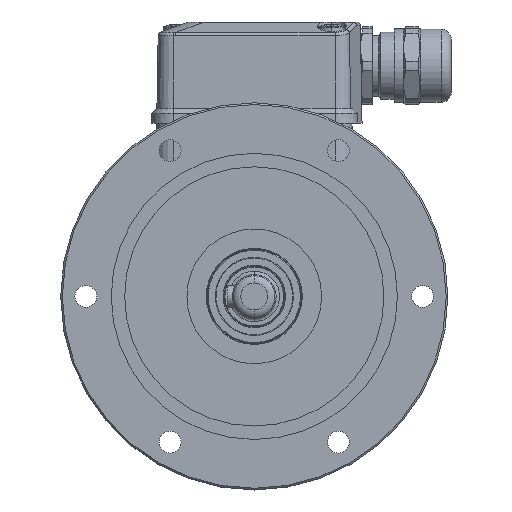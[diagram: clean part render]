
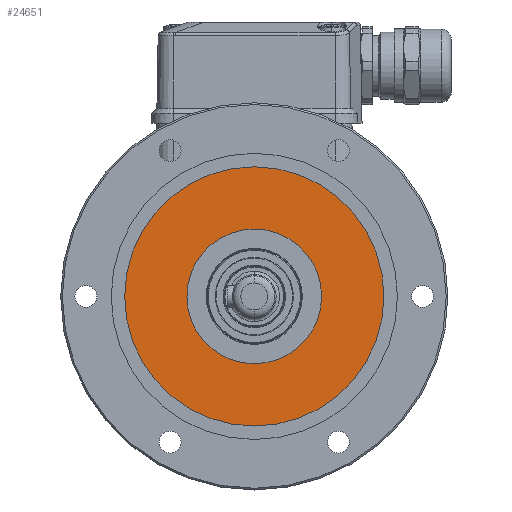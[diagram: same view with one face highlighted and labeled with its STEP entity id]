
A CAD part, left-side view. The second image highlights one B-rep face of the part: STEP entity #24651.
In plain terms, the highlighted planar face has unit normal (-1, 0, 0).
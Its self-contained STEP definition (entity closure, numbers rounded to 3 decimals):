
#1953 = CARTESIAN_POINT ( 'NONE',  ( 4., 0., 0. ) ) ;
#1954 = CARTESIAN_POINT ( 'NONE',  ( 4., 0., 38.5 ) ) ;
#2028 = CARTESIAN_POINT ( 'NONE',  ( 4., 0., -38.5 ) ) ;
#2076 = DIRECTION ( 'NONE',  ( 0., 0., 1. ) ) ;
#2077 = DIRECTION ( 'NONE',  ( -1., 0., 0. ) ) ;
#2078 = AXIS2_PLACEMENT_3D ( 'NONE', #1953, #2077, #2076 ) ;
#2079 = CIRCLE ( 'NONE', #2078, 38.5 ) ;
#2106 = FACE_OUTER_BOUND ( 'NONE', #25101, .T. ) ;
#2107 = FACE_BOUND ( 'NONE', #24768, .T. ) ;
#2180 = DIRECTION ( 'NONE',  ( 0., 0., 1. ) ) ;
#2181 = DIRECTION ( 'NONE',  ( -1., 0., 0. ) ) ;
#2182 = CARTESIAN_POINT ( 'NONE',  ( 4., 0., 0. ) ) ;
#2183 = AXIS2_PLACEMENT_3D ( 'NONE', #2182, #2181, #2180 ) ;
#2184 = CIRCLE ( 'NONE', #2183, 20. ) ;
#2219 = CARTESIAN_POINT ( 'NONE',  ( 4., 0., 20. ) ) ;
#2245 = CARTESIAN_POINT ( 'NONE',  ( 4., 0., -20. ) ) ;
#2269 = DIRECTION ( 'NONE',  ( 0., 0., -1. ) ) ;
#2270 = DIRECTION ( 'NONE',  ( 1., 0., 0. ) ) ;
#2271 = CARTESIAN_POINT ( 'NONE',  ( 4., 20., 0. ) ) ;
#2272 = AXIS2_PLACEMENT_3D ( 'NONE', #2271, #2270, #2269 ) ;
#2275 = PLANE ( 'NONE',  #2272 ) ;
#2463 = DIRECTION ( 'NONE',  ( 0., 0., 1. ) ) ;
#2464 = DIRECTION ( 'NONE',  ( -1., 0., 0. ) ) ;
#2465 = CARTESIAN_POINT ( 'NONE',  ( 4., 0., 0. ) ) ;
#2466 = AXIS2_PLACEMENT_3D ( 'NONE', #2465, #2464, #2463 ) ;
#2467 = CIRCLE ( 'NONE', #2466, 38.5 ) ;
#2693 = DIRECTION ( 'NONE',  ( 0., 0., 1. ) ) ;
#2694 = DIRECTION ( 'NONE',  ( -1., 0., 0. ) ) ;
#2695 = CARTESIAN_POINT ( 'NONE',  ( 4., 0., 0. ) ) ;
#2696 = AXIS2_PLACEMENT_3D ( 'NONE', #2695, #2694, #2693 ) ;
#2702 = CIRCLE ( 'NONE', #2696, 20. ) ;
#23606 = ORIENTED_EDGE ( 'NONE', *, *, #24236, .T. ) ;
#24232 = VERTEX_POINT ( 'NONE', #2028 ) ;
#24233 = VERTEX_POINT ( 'NONE', #1954 ) ;
#24236 = EDGE_CURVE ( 'NONE', #24232, #24233, #2079, .T. ) ;
#24297 = VERTEX_POINT ( 'NONE', #2245 ) ;
#24399 = VERTEX_POINT ( 'NONE', #2219 ) ;
#24488 = EDGE_CURVE ( 'NONE', #24399, #24297, #2184, .T. ) ;
#24651 = ADVANCED_FACE ( 'NONE', ( #2107, #2106 ), #2275, .F. ) ;
#24675 = ORIENTED_EDGE ( 'NONE', *, *, #24676, .T. ) ;
#24676 = EDGE_CURVE ( 'NONE', #24233, #24232, #2467, .T. ) ;
#24712 = ORIENTED_EDGE ( 'NONE', *, *, #24488, .F. ) ;
#24768 = EDGE_LOOP ( 'NONE', ( #24712, #24982 ) ) ;
#24982 = ORIENTED_EDGE ( 'NONE', *, *, #25052, .F. ) ;
#25052 = EDGE_CURVE ( 'NONE', #24297, #24399, #2702, .T. ) ;
#25101 = EDGE_LOOP ( 'NONE', ( #24675, #23606 ) ) ;
